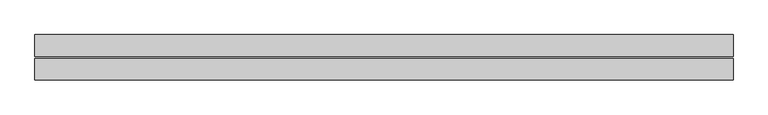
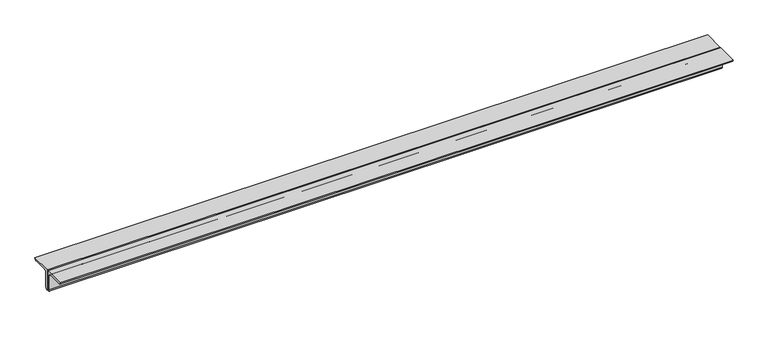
"""IFC4 building model written with IfcOpenShell, lengths in millimetres: beam geometry, Profilati doppi a L : DCED150x12."""

from ifc_helpers import new_model, si_unit, point, frame, frame_2d, origin, place, context, project, spatial, polyline, circle_curve, trimmed, segment, composite_curve, outline, extrude, source, transform, mapped, element, save


def beam_ae258fda(model_context):
    return source(origin(), model_context, "Body", "SweptSolid", [
        extrude(outline(composite_curve([segment(polyline([(-6.0, 42.4), (-6.0, -107.6)]), True, "CONTINUOUS"), segment(trimmed(circle_curve(frame_2d((-6.0, -92.6)), 15.0), [point((-6.0, -107.6))], [point((-21.0, -92.6))], False, "CARTESIAN"), True, "CONTINUOUS"), segment(polyline([(-21.0, -92.6), (-21.0, 12.4)]), True, "CONTINUOUS"), segment(trimmed(circle_curve(frame_2d((-36.0, 12.4)), 15.0), [point((-21.0, 12.4))], [point((-36.0, 27.4))], True, "CARTESIAN"), True, "CONTINUOUS"), segment(polyline([(-36.0, 27.4), (-141.0, 27.4)]), True, "CONTINUOUS"), segment(trimmed(circle_curve(frame_2d((-141.0, 42.4)), 15.0), [point((-141.0, 27.4))], [point((-156.0, 42.4))], False, "CARTESIAN"), True, "CONTINUOUS"), segment(polyline([(-156.0, 42.4), (-6.0, 42.4)]), True, "CONTINUOUS")], self_intersect=False)), frame((-2115.0, 0.0, 0.0), z_axis=(1.0, 0.0, 0.0), x_axis=(0.0, 1.0, 0.0)), (0.0, 0.0, 1.0), 4783.0),
        extrude(outline(composite_curve([segment(polyline([(6.0, 42.4), (156.0, 42.4)]), True, "CONTINUOUS"), segment(trimmed(circle_curve(frame_2d((141.0, 42.4)), 15.0), [point((156.0, 42.4))], [point((141.0, 27.4))], False, "CARTESIAN"), True, "CONTINUOUS"), segment(polyline([(141.0, 27.4), (36.0, 27.4)]), True, "CONTINUOUS"), segment(trimmed(circle_curve(frame_2d((36.0, 12.4)), 15.0), [point((36.0, 27.4))], [point((21.0, 12.4))], True, "CARTESIAN"), True, "CONTINUOUS"), segment(polyline([(21.0, 12.4), (21.0, -92.6)]), True, "CONTINUOUS"), segment(trimmed(circle_curve(frame_2d((6.0, -92.6)), 15.0), [point((21.0, -92.6))], [point((6.0, -107.6))], False, "CARTESIAN"), True, "CONTINUOUS"), segment(polyline([(6.0, -107.6), (6.0, 42.4)]), True, "CONTINUOUS")], self_intersect=False)), frame((-2115.0, 0.0, 0.0), z_axis=(1.0, 0.0, 0.0), x_axis=(0.0, 1.0, 0.0)), (0.0, 0.0, 1.0), 4783.0),
    ])


if __name__ == "__main__":
    model = new_model("IFC4")
    model_context = context("Model", 3, world=origin())
    ifc_project = project(units=[si_unit("LENGTHUNIT", "METRE", prefix="MILLI")], contexts=[model_context])
    site = spatial("IfcSite", under=ifc_project)
    building = spatial("IfcBuilding", under=site)
    placement = place(None, origin())
    beam_shape = beam_ae258fda(model_context)
    element("IfcBeam", 1, ObjectType="Profilati doppi a L : DCED150x12", at=placement, inside=building, context=model_context, shape_type="MappedRepresentation", body=[
        mapped(beam_shape, transform((0.0, 0.0, 0.0), x_axis=(1.0, 0.0, 0.0), y_axis=(0.0, 1.0, 0.0), z_axis=(0.0, 0.0, 1.0))),
    ])
    save(model, "model.ifc")
